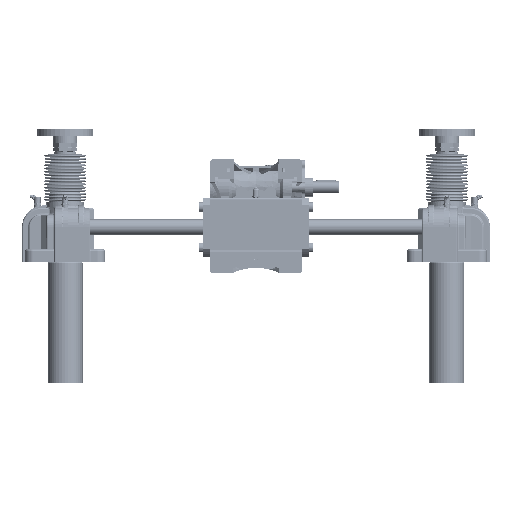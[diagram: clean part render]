
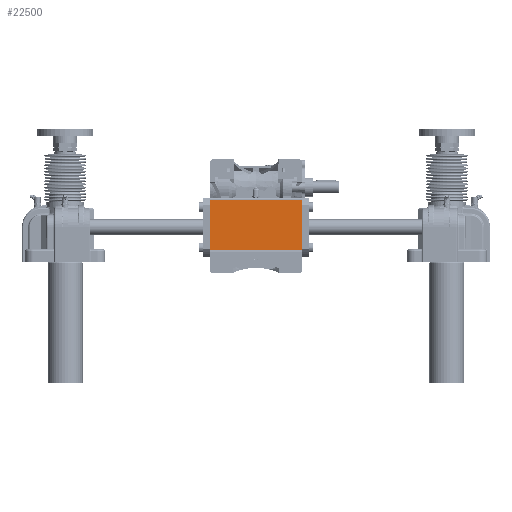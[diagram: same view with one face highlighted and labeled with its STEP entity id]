
A CAD part, front view. The second image highlights one B-rep face of the part: STEP entity #22500.
In plain terms, the highlighted planar face has unit normal (0, -1, 0) as drawn and (0, 1, 0) by its records, which use the part's own axes.
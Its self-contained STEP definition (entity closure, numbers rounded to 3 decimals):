
#22500=ADVANCED_FACE('',(#54044),#54045,.F.);
#54044=FACE_OUTER_BOUND('',#103707,.T.);
#54045=PLANE('',#103708);
#103707=EDGE_LOOP('',(#221154,#221155,#221156,#221157));
#103708=AXIS2_PLACEMENT_3D('',#221158,#221159,#221160);
#221154=ORIENTED_EDGE('',*,*,#287862,.T.);
#221155=ORIENTED_EDGE('',*,*,#287943,.F.);
#221156=ORIENTED_EDGE('',*,*,#288058,.T.);
#221157=ORIENTED_EDGE('',*,*,#288047,.T.);
#221158=CARTESIAN_POINT('',(0.,47.0,96.5));
#221159=DIRECTION('',(0.0,-1.0,0.0));
#221160=DIRECTION('',(0.0,0.0,-1.0));
#287862=EDGE_CURVE('',#357111,#357109,#357112,.T.);
#287943=EDGE_CURVE('',#357265,#357109,#357267,.T.);
#288047=EDGE_CURVE('',#357432,#357111,#357433,.T.);
#288058=EDGE_CURVE('',#357265,#357432,#357449,.T.);
#357109=VERTEX_POINT('',#481735);
#357111=VERTEX_POINT('',#481737);
#357112=LINE('',#481738,#481739);
#357265=VERTEX_POINT('',#482009);
#357267=LINE('',#482011,#482012);
#357432=VERTEX_POINT('',#482307);
#357433=LINE('',#482308,#482309);
#357449=LINE('',#482327,#482328);
#481735=CARTESIAN_POINT('',(-73.0,47.0,14.0));
#481737=CARTESIAN_POINT('',(73.0,47.0,14.0));
#481738=CARTESIAN_POINT('',(0.0,47.0,14.0));
#481739=VECTOR('',#551356,1.0);
#482009=CARTESIAN_POINT('',(-73.0,47.0,93.5));
#482011=CARTESIAN_POINT('',(-73.0,47.0,53.75));
#482012=VECTOR('',#551488,1.0);
#482307=CARTESIAN_POINT('',(73.0,47.0,93.5));
#482308=CARTESIAN_POINT('',(73.0,47.0,53.75));
#482309=VECTOR('',#551661,1.0);
#482327=CARTESIAN_POINT('',(0.,47.0,93.5));
#482328=VECTOR('',#551688,1.0);
#551356=DIRECTION('',(-1.0,0.0,0.));
#551488=DIRECTION('',(0.,0.0,-1.0));
#551661=DIRECTION('',(0.,0.0,-1.0));
#551688=DIRECTION('',(1.0,0.0,0.));
